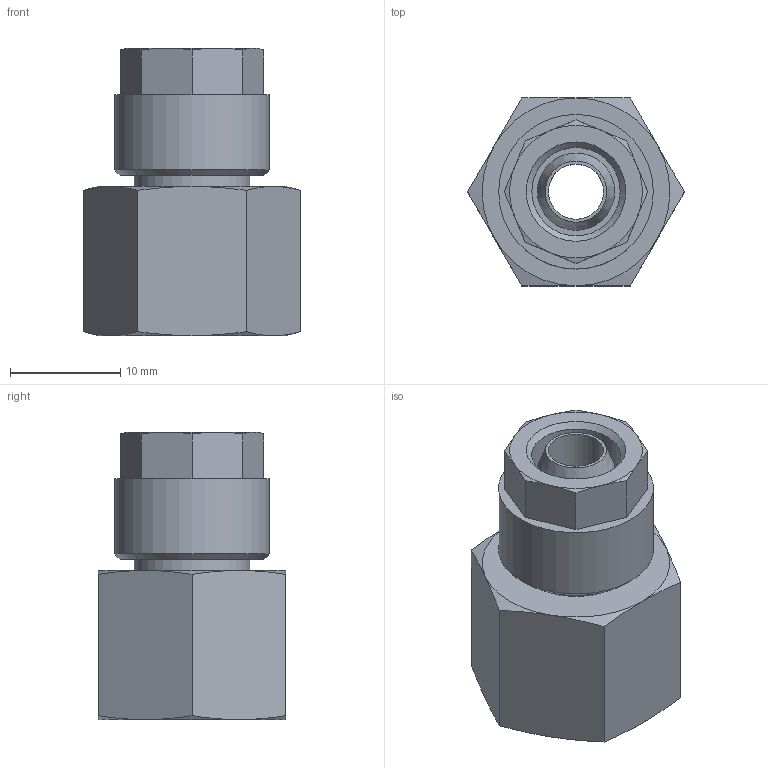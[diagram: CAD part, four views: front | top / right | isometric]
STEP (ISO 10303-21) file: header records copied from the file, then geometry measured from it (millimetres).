
FILE_DESCRIPTION(/* description */ (''),/* implementation_level */ '2;1');
FILE_NAME(/* name */ '10306_302_86_G14_31.08.16',/* time_stamp */ '2016-08-31T09:46:34+02:00',/* author */ (''),/* organization */ (''),/* preprocessor_version */ 'ST-DEVELOPER v16.5',/* originating_system */ 'HiCAD 2016 2101.0 Build 254',/* authorisation */ '');
FILE_SCHEMA (('AUTOMOTIVE_DESIGN { 1 0 10303 214 1 1 1 1 }'));
Length unit declared in the file: millimetre
Products named in the file (3): Root; 17006; R10306
Assembly tree (2 placements, depth 2):
  Root
    17006
    R10306
Bounding box: 19.63 x 17 x 26 mm (x, y, z)
Volume: 3583.2 mm3; surface area: 3229.8 mm2
Topology: 2 solids, 2 shells, 61 faces, 134 edges, 83 vertices
Faces by surface type: cone 29, plane 23, cylinder 8, torus 1
Full cylindrical faces by diameter (mm): 5 x1, 6.5 x1, 8 x1, 10.5 x1, 10.773 x1, 11.445 x1, 12 x1, 14 x1
Entity records: 2665 total; most frequent: DIRECTION 322, CARTESIAN_POINT 246, PRESENTATION_STYLE_ASSIGNMENT 216, COLOUR_RGB 215, DRAUGHTING_PRE_DEFINED_CURVE_FONT 214, CURVE_STYLE 214, OVER_RIDING_STYLED_ITEM 214, ORIENTED_EDGE 214
